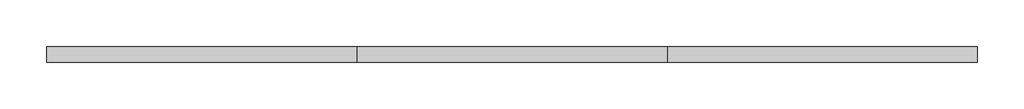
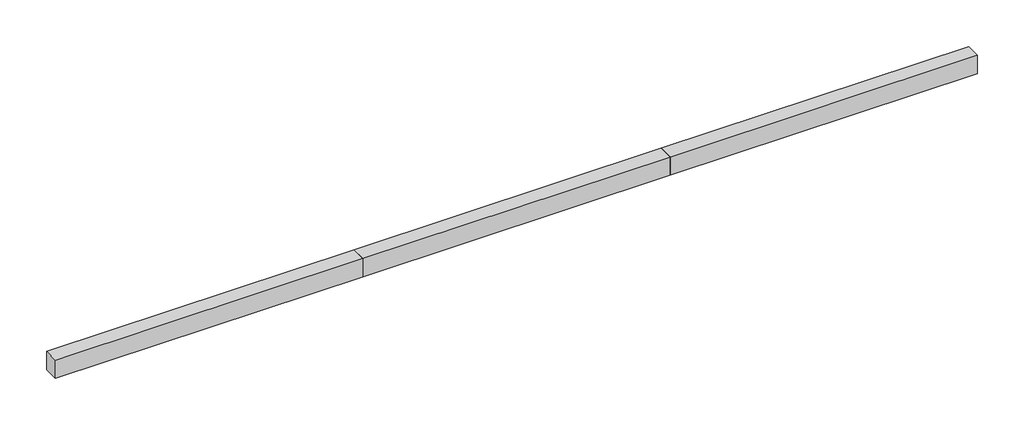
# One storey: 3 proxies.
"""IFC4 building model written with IfcOpenShell, lengths in millimetres."""

from ifc_helpers import new_model, si_unit, origin, place, context, project, spatial, transform, mapped, element, save
from components import generic_models_ddfe650f

model = new_model("IFC4")

# Units and contexts
model_context = context("Model", 3, world=origin())
ifc_project = project(units=[si_unit("LENGTHUNIT", "METRE", prefix="MILLI")], contexts=[model_context])

# Site, building, storey
site = spatial("IfcSite", under=ifc_project)
building = spatial("IfcBuilding", under=site)
storey = spatial("IfcBuildingStorey", under=building, Name="樓層 1", Elevation=0.0)

# Proxies
placement = place(None, origin())
generic_models_shape = generic_models_ddfe650f(model_context)
element("IfcBuildingElementProxy", 1, Name="族群1 : 族群1", ObjectType="族群1 : 族群1", at=placement, inside=storey, context=model_context, shape_type="MappedRepresentation", body=[
    mapped(generic_models_shape, transform((-10131.7224891, 3157.2227603, 0.0), x_axis=(1.0, 0.0, 0.0), y_axis=(0.0, 1.0, 0.0), z_axis=(0.0, 0.0, 1.0))),
])
element("IfcBuildingElementProxy", 2, Name="族群1 : 族群1", ObjectType="族群1 : 族群1", at=placement, inside=storey, context=model_context, shape_type="MappedRepresentation", body=[
    mapped(generic_models_shape, transform((-6131.7224891, 3157.2227603, 0.0), x_axis=(1.0, 0.0, 0.0), y_axis=(0.0, 1.0, 0.0), z_axis=(0.0, 0.0, 1.0))),
])
element("IfcBuildingElementProxy", 3, Name="族群1 : 族群1", ObjectType="族群1 : 族群1", at=placement, inside=storey, context=model_context, shape_type="MappedRepresentation", body=[
    mapped(generic_models_shape, transform((-2131.7224891, 3157.2227603, 0.0), x_axis=(1.0, 0.0, 0.0), y_axis=(0.0, 1.0, 0.0), z_axis=(0.0, 0.0, 1.0))),
])

save(model, "model.ifc")
